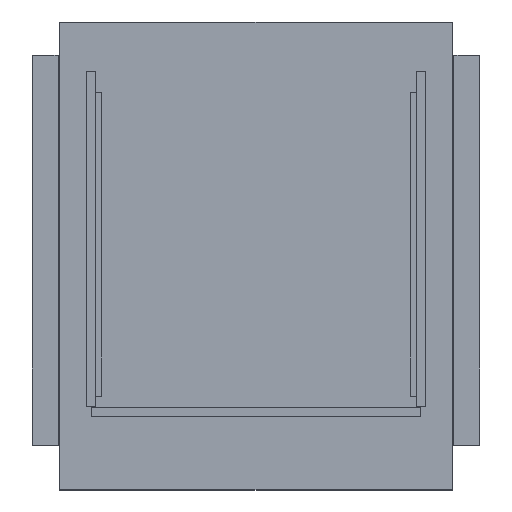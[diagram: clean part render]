
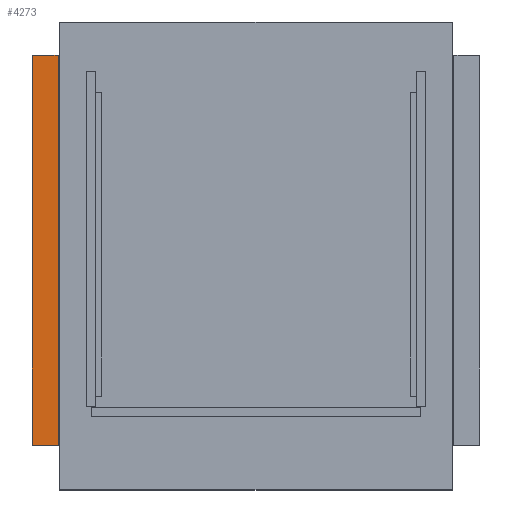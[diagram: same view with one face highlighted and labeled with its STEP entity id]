
A CAD part, top view. The second image highlights one B-rep face of the part: STEP entity #4273.
In plain terms, the highlighted planar face has unit normal (0, 0, 1).
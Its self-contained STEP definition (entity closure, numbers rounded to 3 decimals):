
#127 = PLANE('',#128);
#128 = AXIS2_PLACEMENT_3D('',#129,#130,#131);
#129 = CARTESIAN_POINT('',(-73.25,-65.5,8.9));
#130 = DIRECTION('',(0.,1.,0.));
#131 = DIRECTION('',(0.,0.,1.));
#180 = PLANE('',#181);
#181 = AXIS2_PLACEMENT_3D('',#182,#183,#184);
#182 = CARTESIAN_POINT('',(-73.25,69.5,8.9));
#183 = DIRECTION('',(0.,1.,0.));
#184 = DIRECTION('',(0.,0.,1.));
#1160 = VERTEX_POINT('',#1161);
#1161 = CARTESIAN_POINT('',(-77.5,69.5,15.6));
#1175 = PLANE('',#1176);
#1176 = AXIS2_PLACEMENT_3D('',#1177,#1178,#1179);
#1177 = CARTESIAN_POINT('',(-77.5,-65.5,12.4));
#1178 = DIRECTION('',(1.,0.,0.));
#1179 = DIRECTION('',(0.,0.,1.));
#1187 = EDGE_CURVE('',#1160,#1188,#1190,.T.);
#1188 = VERTEX_POINT('',#1189);
#1189 = CARTESIAN_POINT('',(-68.5,69.5,15.6));
#1190 = SURFACE_CURVE('',#1191,(#1195,#1202),.PCURVE_S1.);
#1191 = LINE('',#1192,#1193);
#1192 = CARTESIAN_POINT('',(-77.5,69.5,15.6));
#1193 = VECTOR('',#1194,1.);
#1194 = DIRECTION('',(1.,0.,0.));
#1195 = PCURVE('',#180,#1196);
#1196 = DEFINITIONAL_REPRESENTATION('',(#1197),#1201);
#1197 = LINE('',#1198,#1199);
#1198 = CARTESIAN_POINT('',(6.7,-4.25));
#1199 = VECTOR('',#1200,1.);
#1200 = DIRECTION('',(0.,1.));
#1201 = ( GEOMETRIC_REPRESENTATION_CONTEXT(2) 
PARAMETRIC_REPRESENTATION_CONTEXT() REPRESENTATION_CONTEXT('2D SPACE',''
  ) );
#1202 = PCURVE('',#1203,#1208);
#1203 = PLANE('',#1204);
#1204 = AXIS2_PLACEMENT_3D('',#1205,#1206,#1207);
#1205 = CARTESIAN_POINT('',(-77.5,-65.5,15.6));
#1206 = DIRECTION('',(0.,0.,1.));
#1207 = DIRECTION('',(1.,0.,0.));
#1208 = DEFINITIONAL_REPRESENTATION('',(#1209),#1213);
#1209 = LINE('',#1210,#1211);
#1210 = CARTESIAN_POINT('',(0.,135.));
#1211 = VECTOR('',#1212,1.);
#1212 = DIRECTION('',(1.,0.));
#1213 = ( GEOMETRIC_REPRESENTATION_CONTEXT(2) 
PARAMETRIC_REPRESENTATION_CONTEXT() REPRESENTATION_CONTEXT('2D SPACE',''
  ) );
#1231 = PLANE('',#1232);
#1232 = AXIS2_PLACEMENT_3D('',#1233,#1234,#1235);
#1233 = CARTESIAN_POINT('',(-68.5,-65.5,12.4));
#1234 = DIRECTION('',(1.,0.,0.));
#1235 = DIRECTION('',(0.,0.,1.));
#1409 = VERTEX_POINT('',#1410);
#1410 = CARTESIAN_POINT('',(-77.5,-65.5,15.6));
#1431 = EDGE_CURVE('',#1409,#1432,#1434,.T.);
#1432 = VERTEX_POINT('',#1433);
#1433 = CARTESIAN_POINT('',(-68.5,-65.5,15.6));
#1434 = SURFACE_CURVE('',#1435,(#1439,#1446),.PCURVE_S1.);
#1435 = LINE('',#1436,#1437);
#1436 = CARTESIAN_POINT('',(-77.5,-65.5,15.6));
#1437 = VECTOR('',#1438,1.);
#1438 = DIRECTION('',(1.,0.,0.));
#1439 = PCURVE('',#127,#1440);
#1440 = DEFINITIONAL_REPRESENTATION('',(#1441),#1445);
#1441 = LINE('',#1442,#1443);
#1442 = CARTESIAN_POINT('',(6.7,-4.25));
#1443 = VECTOR('',#1444,1.);
#1444 = DIRECTION('',(0.,1.));
#1445 = ( GEOMETRIC_REPRESENTATION_CONTEXT(2) 
PARAMETRIC_REPRESENTATION_CONTEXT() REPRESENTATION_CONTEXT('2D SPACE',''
  ) );
#1446 = PCURVE('',#1203,#1447);
#1447 = DEFINITIONAL_REPRESENTATION('',(#1448),#1452);
#1448 = LINE('',#1449,#1450);
#1449 = CARTESIAN_POINT('',(0.,0.));
#1450 = VECTOR('',#1451,1.);
#1451 = DIRECTION('',(1.,0.));
#1452 = ( GEOMETRIC_REPRESENTATION_CONTEXT(2) 
PARAMETRIC_REPRESENTATION_CONTEXT() REPRESENTATION_CONTEXT('2D SPACE',''
  ) );
#3257 = EDGE_CURVE('',#1432,#1188,#3258,.T.);
#3258 = SURFACE_CURVE('',#3259,(#3263,#3270),.PCURVE_S1.);
#3259 = LINE('',#3260,#3261);
#3260 = CARTESIAN_POINT('',(-68.5,-65.5,15.6));
#3261 = VECTOR('',#3262,1.);
#3262 = DIRECTION('',(0.,1.,0.));
#3263 = PCURVE('',#1231,#3264);
#3264 = DEFINITIONAL_REPRESENTATION('',(#3265),#3269);
#3265 = LINE('',#3266,#3267);
#3266 = CARTESIAN_POINT('',(3.2,0.));
#3267 = VECTOR('',#3268,1.);
#3268 = DIRECTION('',(0.,-1.));
#3269 = ( GEOMETRIC_REPRESENTATION_CONTEXT(2) 
PARAMETRIC_REPRESENTATION_CONTEXT() REPRESENTATION_CONTEXT('2D SPACE',''
  ) );
#3270 = PCURVE('',#1203,#3271);
#3271 = DEFINITIONAL_REPRESENTATION('',(#3272),#3276);
#3272 = LINE('',#3273,#3274);
#3273 = CARTESIAN_POINT('',(9.,0.));
#3274 = VECTOR('',#3275,1.);
#3275 = DIRECTION('',(0.,1.));
#3276 = ( GEOMETRIC_REPRESENTATION_CONTEXT(2) 
PARAMETRIC_REPRESENTATION_CONTEXT() REPRESENTATION_CONTEXT('2D SPACE',''
  ) );
#4273 = ADVANCED_FACE('',(#4274),#1203,.T.);
#4274 = FACE_BOUND('',#4275,.T.);
#4275 = EDGE_LOOP('',(#4276,#4297,#4298,#4299));
#4276 = ORIENTED_EDGE('',*,*,#4277,.F.);
#4277 = EDGE_CURVE('',#1409,#1160,#4278,.T.);
#4278 = SURFACE_CURVE('',#4279,(#4283,#4290),.PCURVE_S1.);
#4279 = LINE('',#4280,#4281);
#4280 = CARTESIAN_POINT('',(-77.5,-65.5,15.6));
#4281 = VECTOR('',#4282,1.);
#4282 = DIRECTION('',(0.,1.,0.));
#4283 = PCURVE('',#1203,#4284);
#4284 = DEFINITIONAL_REPRESENTATION('',(#4285),#4289);
#4285 = LINE('',#4286,#4287);
#4286 = CARTESIAN_POINT('',(0.,0.));
#4287 = VECTOR('',#4288,1.);
#4288 = DIRECTION('',(0.,1.));
#4289 = ( GEOMETRIC_REPRESENTATION_CONTEXT(2) 
PARAMETRIC_REPRESENTATION_CONTEXT() REPRESENTATION_CONTEXT('2D SPACE',''
  ) );
#4290 = PCURVE('',#1175,#4291);
#4291 = DEFINITIONAL_REPRESENTATION('',(#4292),#4296);
#4292 = LINE('',#4293,#4294);
#4293 = CARTESIAN_POINT('',(3.2,0.));
#4294 = VECTOR('',#4295,1.);
#4295 = DIRECTION('',(0.,-1.));
#4296 = ( GEOMETRIC_REPRESENTATION_CONTEXT(2) 
PARAMETRIC_REPRESENTATION_CONTEXT() REPRESENTATION_CONTEXT('2D SPACE',''
  ) );
#4297 = ORIENTED_EDGE('',*,*,#1431,.T.);
#4298 = ORIENTED_EDGE('',*,*,#3257,.T.);
#4299 = ORIENTED_EDGE('',*,*,#1187,.F.);
